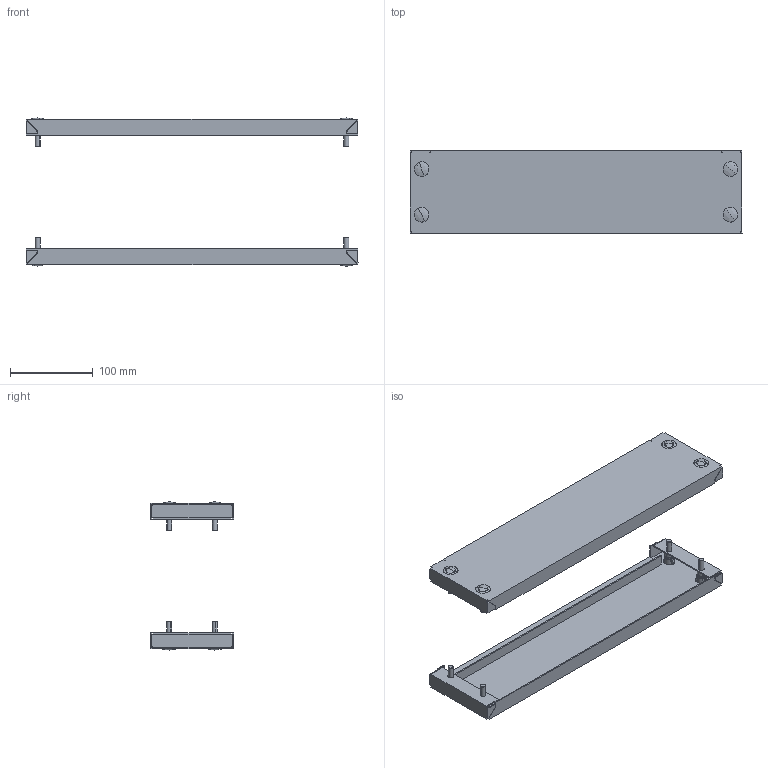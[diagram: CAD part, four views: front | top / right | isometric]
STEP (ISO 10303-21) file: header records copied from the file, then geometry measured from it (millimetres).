
FILE_DESCRIPTION (( 'STEP AP203' ), '1' );
FILE_NAME ('R5FZ4-200.STEP', '2025-06-18T08:27:28', ( '' ), ( '' ), 'SwSTEP 2.0', 'SolidWorks 2022', '' );
FILE_SCHEMA (( 'CONFIG_CONTROL_DESIGN' ));
Length unit declared in the file: millimetre
Products named in the file (5): RB.1055.00.00.0 simple_-00 (400); Plug_11.5-13Д18ЧК_-00; R5FZ4-200; 6 DIN 6798 A Zinc; M6x16 DIN 912 HX cl.4,8 Zinc_stright
Assembly tree (26 placements, depth 2):
  R5FZ4-200
    RB.1055.00.00.0 simple_-00 (400)  x2
    M6x16 DIN 912 HX cl.4,8 Zinc_stright  x8
    6 DIN 6798 A Zinc  x8
    Plug_11.5-13Д18ЧК_-00  x8
Bounding box: 400 x 100.05 x 178.5 mm (x, y, z)
Volume: 206091.3 mm3; surface area: 280424.9 mm2
Topology: 26 solids, 26 shells, 1196 faces, 3456 edges, 2112 vertices
Faces by surface type: plane 700, bspline 208, cylinder 128, cone 96, torus 48, sphere 16
Entity records: 9921 total; most frequent: CARTESIAN_POINT 2626, ORIENTED_EDGE 1352, DIRECTION 1188, EDGE_CURVE 676, VECTOR 448, LINE 448, VERTEX_POINT 444, AXIS2_PLACEMENT_3D 370
